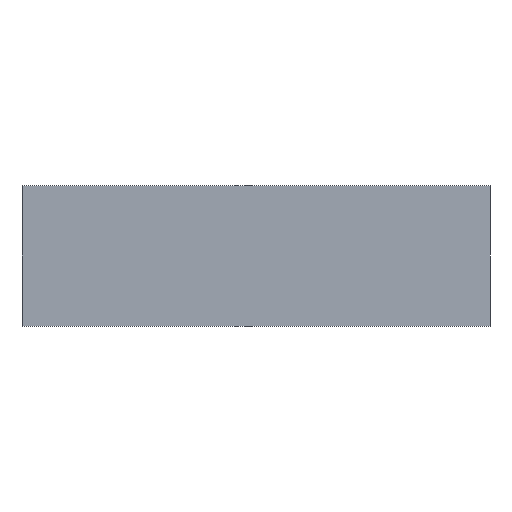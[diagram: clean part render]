
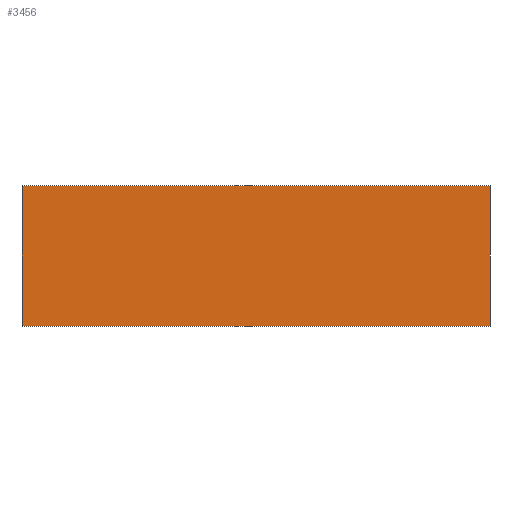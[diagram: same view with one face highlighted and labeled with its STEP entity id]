
A CAD part, front view. The second image highlights one B-rep face of the part: STEP entity #3456.
In plain terms, the highlighted planar face has unit normal (0, -1, 0).
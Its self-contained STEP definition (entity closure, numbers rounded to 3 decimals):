
#204=DIRECTION('',(0.,0.,1.));
#205=VECTOR('',#204,75.);
#206=CARTESIAN_POINT('',(-180.,-12.,-37.5));
#207=LINE('',#206,#205);
#208=DIRECTION('',(1.,0.,0.));
#209=VECTOR('',#208,250.);
#210=CARTESIAN_POINT('',(-180.,-12.,37.5));
#211=LINE('',#210,#209);
#212=DIRECTION('',(0.,0.,-1.));
#213=VECTOR('',#212,75.);
#214=CARTESIAN_POINT('',(70.,-12.,37.5));
#215=LINE('',#214,#213);
#216=DIRECTION('',(-1.,0.,0.));
#217=VECTOR('',#216,250.);
#218=CARTESIAN_POINT('',(70.,-12.,-37.5));
#219=LINE('',#218,#217);
#2660=CARTESIAN_POINT('',(-180.,-12.,37.5));
#2661=CARTESIAN_POINT('',(70.,-12.,37.5));
#2662=VERTEX_POINT('',#2660);
#2663=VERTEX_POINT('',#2661);
#2664=CARTESIAN_POINT('',(70.,-12.,-37.5));
#2665=CARTESIAN_POINT('',(-180.,-12.,-37.5));
#2666=VERTEX_POINT('',#2664);
#2667=VERTEX_POINT('',#2665);
#3445=CARTESIAN_POINT('',(-55.,-12.,0.));
#3446=DIRECTION('',(0.,1.,0.));
#3447=DIRECTION('',(1.,0.,0.));
#3448=AXIS2_PLACEMENT_3D('',#3445,#3446,#3447);
#3449=PLANE('',#3448);
#3450=ORIENTED_EDGE('',*,*,#3397,.T.);
#3451=ORIENTED_EDGE('',*,*,#3412,.T.);
#3452=ORIENTED_EDGE('',*,*,#3426,.T.);
#3453=ORIENTED_EDGE('',*,*,#3439,.T.);
#3454=EDGE_LOOP('',(#3450,#3451,#3452,#3453));
#3455=FACE_OUTER_BOUND('',#3454,.F.);
#3456=ADVANCED_FACE('',(#3455),#3449,.F.);
#3397=EDGE_CURVE('',#2667,#2662,#207,.T.);
#3412=EDGE_CURVE('',#2662,#2663,#211,.T.);
#3426=EDGE_CURVE('',#2663,#2666,#215,.T.);
#3439=EDGE_CURVE('',#2666,#2667,#219,.T.);
